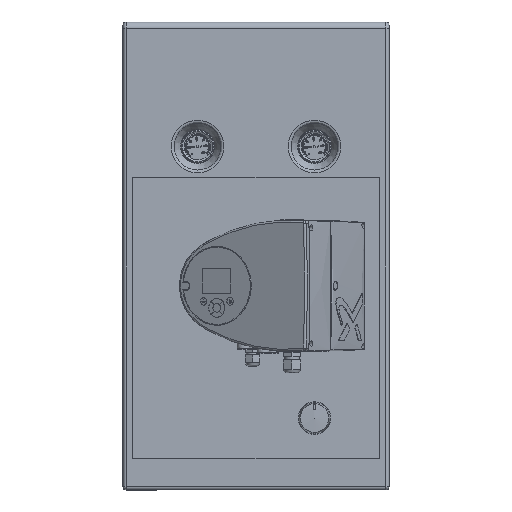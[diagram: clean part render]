
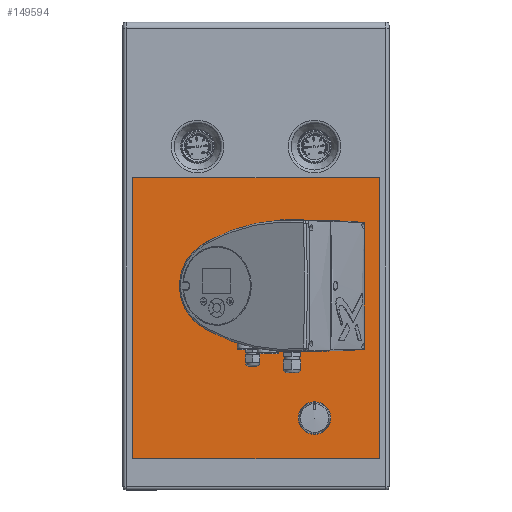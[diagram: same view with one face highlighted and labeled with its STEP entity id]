
A CAD part, top view. The second image highlights one B-rep face of the part: STEP entity #149594.
In plain terms, the highlighted planar face has unit normal (0, 0, 1).
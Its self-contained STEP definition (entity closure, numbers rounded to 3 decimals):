
#145330=CARTESIAN_POINT('',(25.,-63.4,135.));
#145331=VERTEX_POINT('',#145330);
#145332=CARTESIAN_POINT('',(0.,-63.4,135.));
#145333=DIRECTION('',(0.0,0.0,-1.0));
#145334=DIRECTION('',(-1.0,0.0,0.0));
#145335=AXIS2_PLACEMENT_3D('',#145332,#145333,#145334);
#145336=CIRCLE('',#145335,25.0);
#145337=EDGE_CURVE('',#145331,#145331,#145336,.T.);
#145357=CARTESIAN_POINT('',(100.,306.3,135.));
#145358=VERTEX_POINT('',#145357);
#145365=CARTESIAN_POINT('',(100.,-125.7,135.));
#145366=VERTEX_POINT('',#145365);
#145367=CARTESIAN_POINT('',(100.,306.3,135.));
#145368=DIRECTION('',(0.0,-1.0,0.0));
#145369=VECTOR('',#145368,432.0);
#145370=LINE('',#145367,#145369);
#145371=EDGE_CURVE('',#145358,#145366,#145370,.T.);
#149521=CARTESIAN_POINT('',(-280.,-125.7,135.));
#149522=VERTEX_POINT('',#149521);
#149529=CARTESIAN_POINT('',(-280.,306.3,135.));
#149530=VERTEX_POINT('',#149529);
#149531=CARTESIAN_POINT('',(-280.,306.3,135.));
#149532=DIRECTION('',(0.0,-1.0,0.0));
#149533=VECTOR('',#149532,432.0);
#149534=LINE('',#149531,#149533);
#149535=EDGE_CURVE('',#149530,#149522,#149534,.T.);
#149553=CARTESIAN_POINT('',(100.,306.3,135.));
#149554=DIRECTION('',(-1.0,0.0,0.0));
#149555=VECTOR('',#149554,380.);
#149556=LINE('',#149553,#149555);
#149557=EDGE_CURVE('',#145358,#149530,#149556,.T.);
#149570=CARTESIAN_POINT('',(-280.,-125.7,135.));
#149571=DIRECTION('',(1.0,0.0,0.0));
#149572=VECTOR('',#149571,380.);
#149573=LINE('',#149570,#149572);
#149574=EDGE_CURVE('',#149522,#145366,#149573,.T.);
#149580=CARTESIAN_POINT('',(-92.5,90.3,135.));
#149581=DIRECTION('',(0.0,0.0,-1.0));
#149582=DIRECTION('',(-1.0,0.0,0.0));
#149583=AXIS2_PLACEMENT_3D('',#149580,#149581,#149582);
#149584=PLANE('',#149583);
#149585=ORIENTED_EDGE('',*,*,#149574,.T.);
#149586=ORIENTED_EDGE('',*,*,#145371,.F.);
#149587=ORIENTED_EDGE('',*,*,#149557,.T.);
#149588=ORIENTED_EDGE('',*,*,#149535,.T.);
#149589=EDGE_LOOP('',(#149585,#149586,#149587,#149588));
#149590=FACE_OUTER_BOUND('',#149589,.T.);
#149591=ORIENTED_EDGE('',*,*,#145337,.T.);
#149592=EDGE_LOOP('',(#149591));
#149593=FACE_BOUND('',#149592,.T.);
#149594=ADVANCED_FACE('',(#149590,#149593),#149584,.F.);
